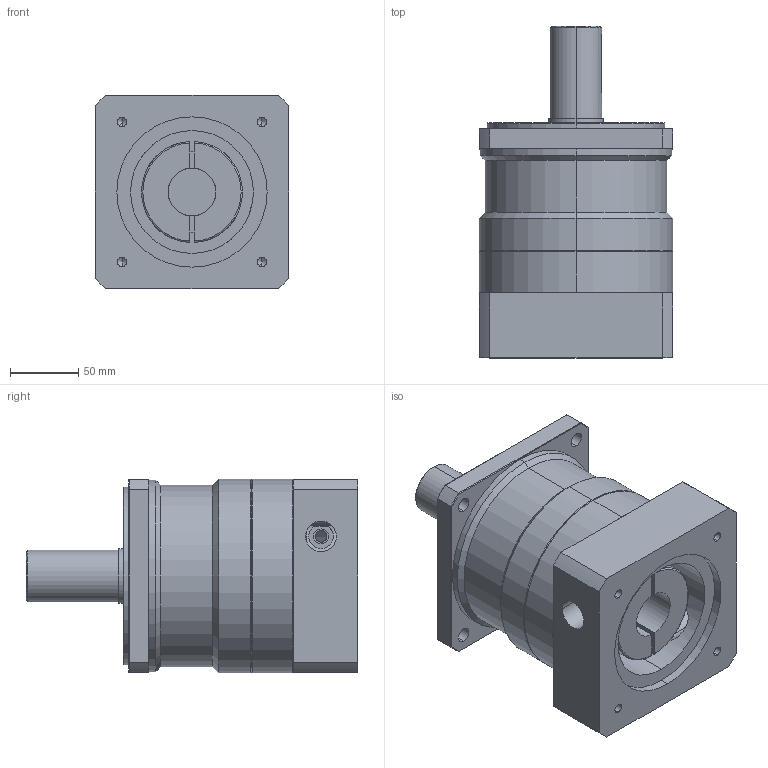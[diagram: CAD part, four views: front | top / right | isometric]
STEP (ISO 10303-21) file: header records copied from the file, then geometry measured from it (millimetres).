
FILE_DESCRIPTION (( 'STEP AP203' ), '1' );
FILE_NAME ('MF150X-L1£r110PCD£r145M8.STEP', '2014-11-28T06:06:05', ( 'KELLY' ), ( '' ), 'SwSTEP 2.0', 'SolidWorks 2012', '' );
FILE_SCHEMA (( 'CONFIG_CONTROL_DESIGN' ));
Length unit declared in the file: millimetre
Products named in the file (1): MF150X-L1｣r110PCD｣r145M8
Bounding box: 142 x 243 x 142 mm (x, y, z)
Volume: 2595771 mm3; surface area: 223029.6 mm2
Topology: 2 solids, 2 shells, 152 faces, 365 edges, 223 vertices
Faces by surface type: cylinder 71, plane 43, cone 32, torus 6
Entity records: 5089 total; most frequent: CARTESIAN_POINT 1434, DIRECTION 781, ORIENTED_EDGE 710, EDGE_CURVE 355, AXIS2_PLACEMENT_3D 313, VERTEX_POINT 223, EDGE_LOOP 188, CIRCLE 160
